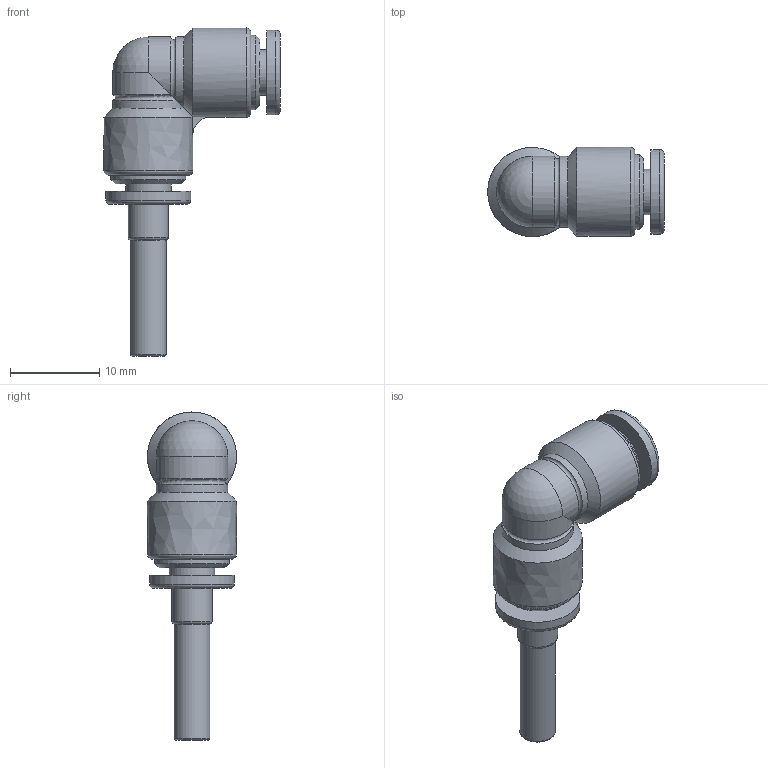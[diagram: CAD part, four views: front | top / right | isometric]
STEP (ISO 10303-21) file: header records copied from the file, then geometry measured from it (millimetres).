
FILE_DESCRIPTION((''),'2;1');
FILE_NAME('E:\2012年度板ﾃﾞｰﾀ\CHIYODA 3D-CAD DATA (Inventor 11)\TOUCH CONNECTOR FIVE (Inventor 11)\[22] L CONNECTOR\[01] FR4-00LC FR4-00LCW.stp','2012-03-21T16:33:59',('kazuhiro.t'),(''),'Autodesk Inventor 11','Autodesk Inventor 11','');
FILE_SCHEMA(('AUTOMOTIVE_DESIGN { 1 0 10303 214 1 1 1 1 }'));
Length unit declared in the file: millimetre
Products named in the file (1): [01] FR4-00LC FR4-00LCW
Bounding box: 19.8 x 10 x 36.8 mm (x, y, z)
Volume: 1847.4 mm3; surface area: 1727.5 mm2
Topology: 1 solids, 1 shells, 47 faces, 97 edges, 60 vertices
Faces by surface type: plane 14, cylinder 13, bspline 11, torus 5, cone 3, sphere 1
Full cylindrical faces by diameter (mm): 2.1 x1, 4 x1, 4.5 x1, 5.1 x2, 8.4 x2, 9.5 x2, 10 x1
Entity records: 1394 total; most frequent: CARTESIAN_POINT 486, DIRECTION 190, ORIENTED_EDGE 148, AXIS2_PLACEMENT_3D 87, EDGE_LOOP 76, EDGE_CURVE 74, VERTEX_POINT 58, FACE_OUTER_BOUND 47
